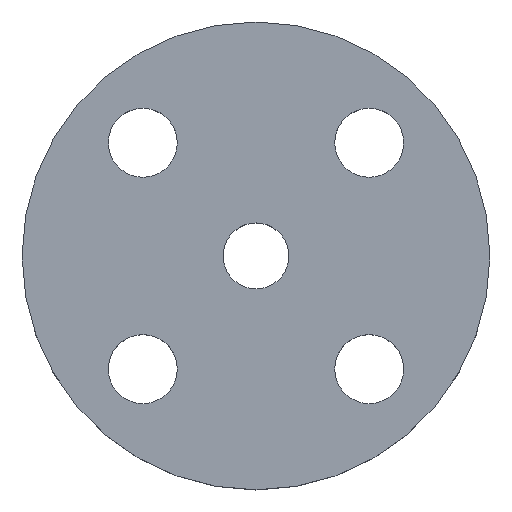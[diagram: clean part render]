
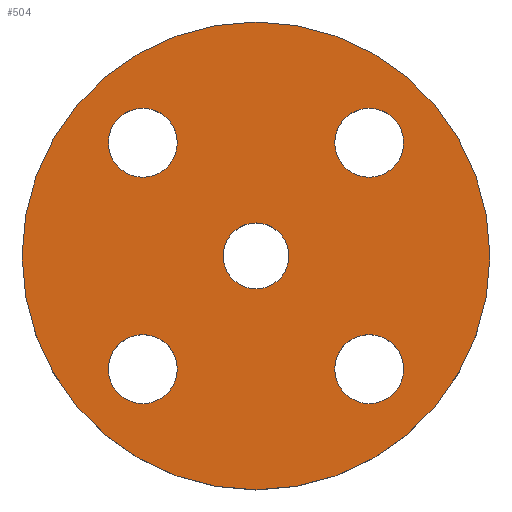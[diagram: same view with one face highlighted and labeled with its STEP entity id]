
A CAD part, top view. The second image highlights one B-rep face of the part: STEP entity #504.
In plain terms, the highlighted planar face has unit normal (0, 0, 1).
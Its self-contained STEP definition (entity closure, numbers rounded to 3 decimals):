
#5 = CIRCLE ( 'NONE', #187, 7. ) ;
#15 = EDGE_CURVE ( 'NONE', #303, #296, #62, .T. ) ;
#16 = AXIS2_PLACEMENT_3D ( 'NONE', #479, #481, #482 ) ;
#18 = EDGE_CURVE ( 'NONE', #296, #303, #598, .T. ) ;
#21 = AXIS2_PLACEMENT_3D ( 'NONE', #612, #293, #141 ) ;
#26 = CIRCLE ( 'NONE', #143, 6.688 ) ;
#29 = CIRCLE ( 'NONE', #252, 47.5 ) ;
#36 = CIRCLE ( 'NONE', #37, 6.688 ) ;
#37 = AXIS2_PLACEMENT_3D ( 'NONE', #546, #547, #548 ) ;
#50 = CARTESIAN_POINT ( 'NONE',  ( -15.981, -22.981, 0. ) ) ;
#54 = CIRCLE ( 'NONE', #60, 47.5 ) ;
#55 = AXIS2_PLACEMENT_3D ( 'NONE', #268, #269, #270 ) ;
#60 = AXIS2_PLACEMENT_3D ( 'NONE', #588, #589, #590 ) ;
#62 = CIRCLE ( 'NONE', #544, 7. ) ;
#73 = CIRCLE ( 'NONE', #92, 7. ) ;
#92 = AXIS2_PLACEMENT_3D ( 'NONE', #199, #200, #203 ) ;
#113 = AXIS2_PLACEMENT_3D ( 'NONE', #582, #583, #584 ) ;
#114 = EDGE_CURVE ( 'NONE', #304, #463, #36, .T. ) ;
#115 = CIRCLE ( 'NONE', #113, 7. ) ;
#139 = CARTESIAN_POINT ( 'NONE',  ( -15.981, 22.981, 0. ) ) ;
#141 = DIRECTION ( 'NONE',  ( -1., 0., 0. ) ) ;
#143 = AXIS2_PLACEMENT_3D ( 'NONE', #567, #568, #570 ) ;
#165 = EDGE_CURVE ( 'NONE', #463, #304, #26, .T. ) ;
#175 = CARTESIAN_POINT ( 'NONE',  ( 0., 0., 0. ) ) ;
#176 = DIRECTION ( 'NONE',  ( 0., 0., 1. ) ) ;
#178 = DIRECTION ( 'NONE',  ( 1., 0., 0. ) ) ;
#183 = AXIS2_PLACEMENT_3D ( 'NONE', #251, #254, #255 ) ;
#187 = AXIS2_PLACEMENT_3D ( 'NONE', #608, #610, #611 ) ;
#189 = AXIS2_PLACEMENT_3D ( 'NONE', #212, #213, #214 ) ;
#190 = CIRCLE ( 'NONE', #189, 7. ) ;
#195 = CARTESIAN_POINT ( 'NONE',  ( -29.981, 22.981, 0. ) ) ;
#199 = CARTESIAN_POINT ( 'NONE',  ( 22.981, -22.981, 0. ) ) ;
#200 = DIRECTION ( 'NONE',  ( 0., 0., -1. ) ) ;
#202 = EDGE_CURVE ( 'NONE', #315, #313, #115, .T. ) ;
#203 = DIRECTION ( 'NONE',  ( -1., 0., 0. ) ) ;
#210 = CARTESIAN_POINT ( 'NONE',  ( 47.5, 0., 0. ) ) ;
#211 = CARTESIAN_POINT ( 'NONE',  ( 15.981, -22.981, 0. ) ) ;
#212 = CARTESIAN_POINT ( 'NONE',  ( -22.981, 22.981, 0. ) ) ;
#213 = DIRECTION ( 'NONE',  ( 0., 0., -1. ) ) ;
#214 = DIRECTION ( 'NONE',  ( -1., 0., 0. ) ) ;
#215 = CIRCLE ( 'NONE', #55, 7. ) ;
#219 = CARTESIAN_POINT ( 'NONE',  ( 29.981, -22.981, 0. ) ) ;
#223 = CARTESIAN_POINT ( 'NONE',  ( -47.5, 0., 0. ) ) ;
#227 = CARTESIAN_POINT ( 'NONE',  ( -6.688, 0., 0. ) ) ;
#229 = EDGE_CURVE ( 'NONE', #459, #445, #54, .T. ) ;
#239 = FACE_BOUND ( 'NONE', #302, .T. ) ;
#242 = FACE_BOUND ( 'NONE', #444, .T. ) ;
#243 = FACE_BOUND ( 'NONE', #455, .T. ) ;
#244 = FACE_BOUND ( 'NONE', #316, .T. ) ;
#246 = FACE_BOUND ( 'NONE', #299, .T. ) ;
#247 = FACE_OUTER_BOUND ( 'NONE', #448, .T. ) ;
#249 = PLANE ( 'NONE',  #183 ) ;
#251 = CARTESIAN_POINT ( 'NONE',  ( 0., 0., 0. ) ) ;
#252 = AXIS2_PLACEMENT_3D ( 'NONE', #175, #176, #178 ) ;
#254 = DIRECTION ( 'NONE',  ( 0., 0., 1. ) ) ;
#255 = DIRECTION ( 'NONE',  ( 1., 0., 0. ) ) ;
#263 = CIRCLE ( 'NONE', #21, 7. ) ;
#268 = CARTESIAN_POINT ( 'NONE',  ( 22.981, -22.981, 0. ) ) ;
#269 = DIRECTION ( 'NONE',  ( 0., 0., -1. ) ) ;
#270 = DIRECTION ( 'NONE',  ( -1., 0., 0. ) ) ;
#282 = EDGE_CURVE ( 'NONE', #314, #415, #5, .T. ) ;
#293 = DIRECTION ( 'NONE',  ( 0., 0., -1. ) ) ;
#296 = VERTEX_POINT ( 'NONE', #636 ) ;
#299 = EDGE_LOOP ( 'NONE', ( #386, #388 ) ) ;
#302 = EDGE_LOOP ( 'NONE', ( #375, #376 ) ) ;
#303 = VERTEX_POINT ( 'NONE', #639 ) ;
#304 = VERTEX_POINT ( 'NONE', #640 ) ;
#313 = VERTEX_POINT ( 'NONE', #642 ) ;
#314 = VERTEX_POINT ( 'NONE', #139 ) ;
#315 = VERTEX_POINT ( 'NONE', #50 ) ;
#316 = EDGE_LOOP ( 'NONE', ( #383, #385 ) ) ;
#329 = EDGE_CURVE ( 'NONE', #313, #315, #263, .T. ) ;
#375 = ORIENTED_EDGE ( 'NONE', *, *, #532, .T. ) ;
#376 = ORIENTED_EDGE ( 'NONE', *, *, #428, .T. ) ;
#377 = ORIENTED_EDGE ( 'NONE', *, *, #202, .T. ) ;
#378 = ORIENTED_EDGE ( 'NONE', *, *, #329, .T. ) ;
#381 = ORIENTED_EDGE ( 'NONE', *, *, #282, .T. ) ;
#382 = ORIENTED_EDGE ( 'NONE', *, *, #450, .T. ) ;
#383 = ORIENTED_EDGE ( 'NONE', *, *, #18, .T. ) ;
#385 = ORIENTED_EDGE ( 'NONE', *, *, #15, .T. ) ;
#386 = ORIENTED_EDGE ( 'NONE', *, *, #114, .F. ) ;
#388 = ORIENTED_EDGE ( 'NONE', *, *, #165, .F. ) ;
#389 = ORIENTED_EDGE ( 'NONE', *, *, #400, .T. ) ;
#390 = ORIENTED_EDGE ( 'NONE', *, *, #229, .T. ) ;
#400 = EDGE_CURVE ( 'NONE', #445, #459, #29, .T. ) ;
#415 = VERTEX_POINT ( 'NONE', #195 ) ;
#428 = EDGE_CURVE ( 'NONE', #447, #453, #73, .T. ) ;
#444 = EDGE_LOOP ( 'NONE', ( #377, #378 ) ) ;
#445 = VERTEX_POINT ( 'NONE', #210 ) ;
#447 = VERTEX_POINT ( 'NONE', #211 ) ;
#448 = EDGE_LOOP ( 'NONE', ( #389, #390 ) ) ;
#450 = EDGE_CURVE ( 'NONE', #415, #314, #190, .T. ) ;
#453 = VERTEX_POINT ( 'NONE', #219 ) ;
#455 = EDGE_LOOP ( 'NONE', ( #381, #382 ) ) ;
#459 = VERTEX_POINT ( 'NONE', #223 ) ;
#463 = VERTEX_POINT ( 'NONE', #227 ) ;
#473 = CARTESIAN_POINT ( 'NONE',  ( 22.981, 22.981, 0. ) ) ;
#474 = DIRECTION ( 'NONE',  ( 0., 0., -1. ) ) ;
#475 = DIRECTION ( 'NONE',  ( -1., 0., 0. ) ) ;
#479 = CARTESIAN_POINT ( 'NONE',  ( 22.981, 22.981, 0. ) ) ;
#481 = DIRECTION ( 'NONE',  ( 0., 0., -1. ) ) ;
#482 = DIRECTION ( 'NONE',  ( -1., 0., 0. ) ) ;
#504 = ADVANCED_FACE ( 'NONE', ( #239, #242, #243, #244, #246, #247 ), #249, .T. ) ;
#532 = EDGE_CURVE ( 'NONE', #453, #447, #215, .T. ) ;
#544 = AXIS2_PLACEMENT_3D ( 'NONE', #473, #474, #475 ) ;
#546 = CARTESIAN_POINT ( 'NONE',  ( 0., 0., 0. ) ) ;
#547 = DIRECTION ( 'NONE',  ( 0., 0., 1. ) ) ;
#548 = DIRECTION ( 'NONE',  ( 1., 0., 0. ) ) ;
#567 = CARTESIAN_POINT ( 'NONE',  ( 0., 0., 0. ) ) ;
#568 = DIRECTION ( 'NONE',  ( 0., 0., 1. ) ) ;
#570 = DIRECTION ( 'NONE',  ( 1., 0., 0. ) ) ;
#582 = CARTESIAN_POINT ( 'NONE',  ( -22.981, -22.981, 0. ) ) ;
#583 = DIRECTION ( 'NONE',  ( 0., 0., -1. ) ) ;
#584 = DIRECTION ( 'NONE',  ( -1., 0., 0. ) ) ;
#588 = CARTESIAN_POINT ( 'NONE',  ( 0., 0., 0. ) ) ;
#589 = DIRECTION ( 'NONE',  ( 0., 0., 1. ) ) ;
#590 = DIRECTION ( 'NONE',  ( 1., 0., 0. ) ) ;
#598 = CIRCLE ( 'NONE', #16, 7. ) ;
#608 = CARTESIAN_POINT ( 'NONE',  ( -22.981, 22.981, 0. ) ) ;
#610 = DIRECTION ( 'NONE',  ( 0., 0., -1. ) ) ;
#611 = DIRECTION ( 'NONE',  ( -1., 0., 0. ) ) ;
#612 = CARTESIAN_POINT ( 'NONE',  ( -22.981, -22.981, 0. ) ) ;
#636 = CARTESIAN_POINT ( 'NONE',  ( 29.981, 22.981, 0. ) ) ;
#639 = CARTESIAN_POINT ( 'NONE',  ( 15.981, 22.981, 0. ) ) ;
#640 = CARTESIAN_POINT ( 'NONE',  ( 6.688, 0., 0. ) ) ;
#642 = CARTESIAN_POINT ( 'NONE',  ( -29.981, -22.981, 0. ) ) ;
